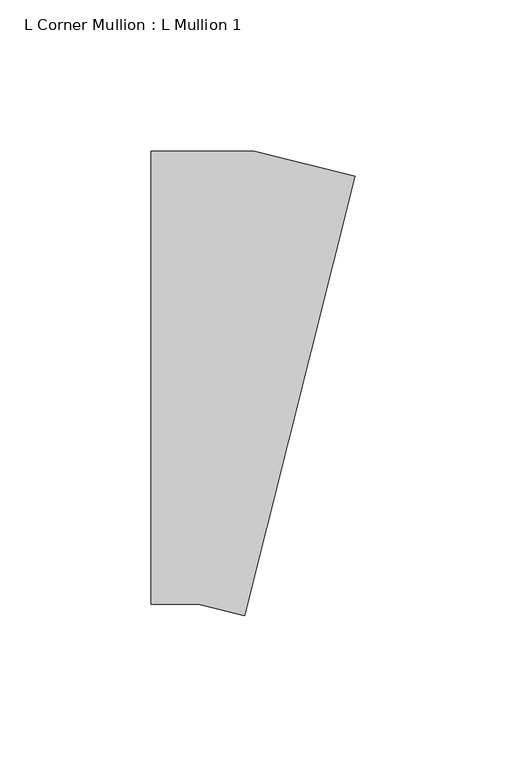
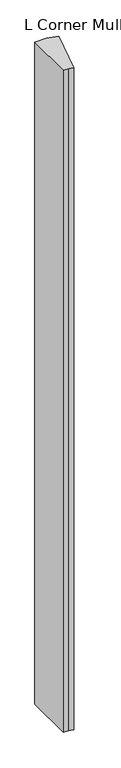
"""IFC4 building model written with IfcOpenShell, lengths in millimetres: member geometry, L Corner Mullion : L Mullion 1."""

from ifc_helpers import new_model, si_unit, frame, origin, place, context, project, spatial, polyline, outline, extrude, source, transform, mapped, element, save


def l_corner_mullion_l_mullion_1_93f36c72(model_context):
    return source(origin(), model_context, "Body", "SweptSolid", [
        extrude(outline(polyline([(5.97061, -78.8311602), (-9.2777318, -75.0), (-25.0, -75.0), (-25.0, 75.0), (9.2777318, 75.0), (42.5222081, 66.6472942), (5.97061, -78.8311602)])), frame((0.0, 0.0, -2146.4819646), z_axis=(0.0, 0.0, 1.0), x_axis=(1.0, 0.0, 0.0)), (0.0, 0.0, 1.0), 2146.4819646),
    ])


if __name__ == "__main__":
    model = new_model("IFC4")
    model_context = context("Model", 3, world=origin())
    ifc_project = project(units=[si_unit("LENGTHUNIT", "METRE", prefix="MILLI")], contexts=[model_context])
    site = spatial("IfcSite", under=ifc_project)
    building = spatial("IfcBuilding", under=site)
    placement = place(None, origin())
    l_corner_mullion_l_mullion_1_shape = l_corner_mullion_l_mullion_1_93f36c72(model_context)
    element("IfcMember", 1, ObjectType="L Corner Mullion : L Mullion 1", at=placement, inside=building, context=model_context, shape_type="MappedRepresentation", body=[
        mapped(l_corner_mullion_l_mullion_1_shape, transform((0.0, 0.0, 0.0), x_axis=(1.0, 0.0, 0.0), y_axis=(0.0, 1.0, 0.0), z_axis=(0.0, 0.0, 1.0))),
    ])
    save(model, "model.ifc")
